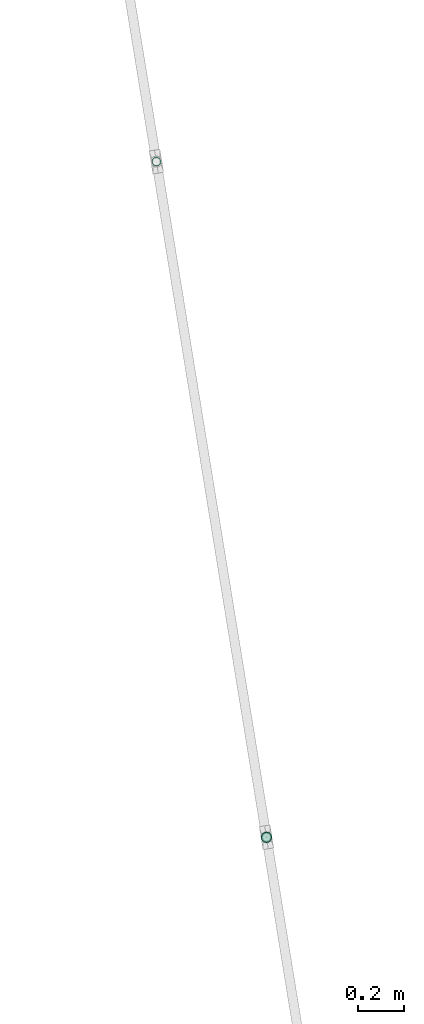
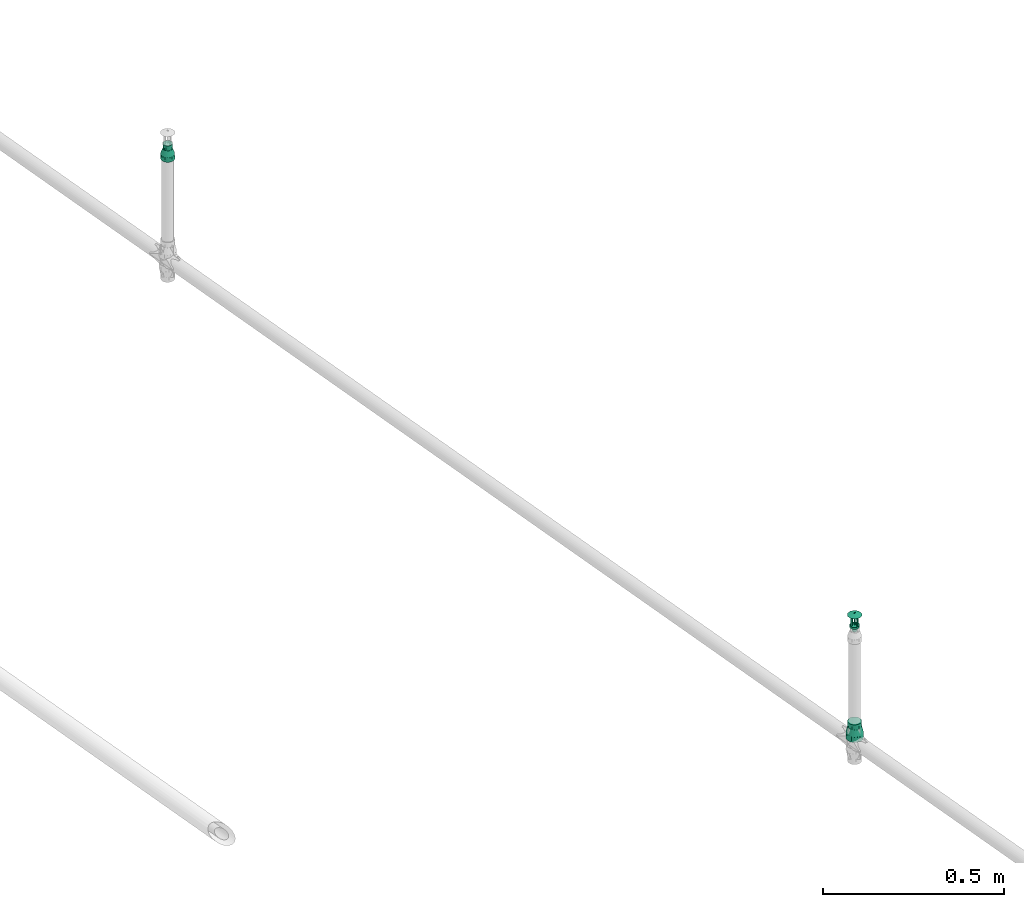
# One storey, part 33 of 56: 2 flow fittings, 1 flow terminal.
"""IFC2X3 building model written with IfcOpenShell, lengths in millimetres."""

from ifc_helpers import new_model, entity, si_unit, converted_unit, derived_unit, direction, frame, origin, origin_with_axes, place, context, subcontext, project, spatial, faceted_brep, source, transform, mapped, material, type_object, element, save


model = new_model("IFC2X3")

# Units and contexts
model_context = context("Model", 3, precision=0.01, world=origin(), true_north=direction((6.12323399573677e-17, 1.0)))
plan_context = context("Plan", 3, precision=1e-05, world=origin_with_axes())
body_context = subcontext(model_context, "Body", "Model", "MODEL_VIEW")
ifc_project = project(units=[converted_unit("PLANEANGLEUNIT", "DEGREE", entity("IfcPositiveLengthMeasure", 0.0174532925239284), si_unit("PLANEANGLEUNIT", "RADIAN"), dimensions=[0, 0, 0, 0, 0, 0, 0]), si_unit("AREAUNIT", "SQUARE_METRE"), si_unit("LENGTHUNIT", "METRE", prefix="MILLI"), si_unit("MASSUNIT", "GRAM", prefix="KILO"), si_unit("POWERUNIT", "WATT"), si_unit("PRESSUREUNIT", "PASCAL", prefix="KILO"), si_unit("FORCEUNIT", "NEWTON", prefix="KILO"), si_unit("ELECTRICVOLTAGEUNIT", "VOLT"), si_unit("ELECTRICCURRENTUNIT", "AMPERE"), si_unit("THERMODYNAMICTEMPERATUREUNIT", "DEGREE_CELSIUS"), si_unit("TIMEUNIT", "SECOND"), si_unit("VOLUMEUNIT", "CUBIC_METRE"), derived_unit("LINEARVELOCITYUNIT", [(si_unit("LENGTHUNIT", "METRE"), 1), (si_unit("TIMEUNIT", "SECOND"), -1)]), derived_unit("VOLUMETRICFLOWRATEUNIT", [(si_unit("VOLUMEUNIT", "CUBIC_METRE"), 1), (si_unit("TIMEUNIT", "SECOND"), -1)]), derived_unit("THERMALTRANSMITTANCEUNIT", [(si_unit("POWERUNIT", "WATT"), 1), (si_unit("THERMODYNAMICTEMPERATUREUNIT", "KELVIN"), -1), (si_unit("AREAUNIT", "SQUARE_METRE"), -1)]), derived_unit("SOUNDPRESSUREUNIT", [(si_unit("PRESSUREUNIT", "PASCAL"), 1)])], contexts=[model_context, plan_context])

# Site, building, storey
site_placement = place(None, frame((-3.09682673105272e-06, 1.93776733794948e-05, 0.0), z_axis=(0.0, 0.0, 1.0), x_axis=(-0.160806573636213, 0.986985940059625, 0.0)))
site = spatial("IfcSite", under=ifc_project, at=site_placement, Name="Default", CompositionType="ELEMENT")
building_placement = place(site_placement, frame((0.0, 0.0, 0.0), z_axis=(0.0, 0.0, 1.0), x_axis=(1.0, -2.77555756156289e-17, 0.0)))
building = spatial("IfcBuilding", under=site, at=building_placement, Name="Bygning (endres i Project Information)", CompositionType="ELEMENT")
storey_placement = place(building_placement, frame((0.0, 0.0, 51360.0000000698), z_axis=(0.0, 0.0, 1.0), x_axis=(1.0, -2.77555756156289e-17, 0.0)))
storey = spatial("IfcBuildingStorey", under=building, at=storey_placement, Name="H01-Nivå D+0,36", CompositionType="ELEMENT", Elevation=51360.0000000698)

# Flow fittings
ifc_material = material(Name="3320.001")
pipe_fitting_type_1 = type_object("IfcPipeFittingType", Name="RS_53_PIF_UN_Reducing-Socket-EN10241_MC_gen:RS_53_PIF_UN_Reducing-Socket-EN10241_MC_gen", PredefinedType="NOTDEFINED", material=ifc_material)
shared_shape_1 = source(origin(), body_context, "Body", "Brep", [
    faceted_brep([(0.0, 5.11167614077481, 19.0770350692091), (0.0, 9.87500000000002, 17.1040017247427), (0.0, 13.9653589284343, 13.9653589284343), (0.0, 17.1040017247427, 9.87499999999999), (0.0, 19.0770350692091, 5.11167614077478), (0.0, 19.75, 0.0), (0.0, 19.0770350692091, -5.1116761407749), (0.0, 17.1040017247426, -9.8750000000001), (0.0, 13.9653589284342, -13.9653589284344), (0.0, 9.87499999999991, -17.1040017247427), (0.0, 5.11167614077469, -19.0770350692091), (0.0, 0.0, -19.75), (0.0, -5.11167614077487, -19.0770350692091), (0.0, -9.87500000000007, -17.1040017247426), (0.0, -13.9653589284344, -13.9653589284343), (0.0, -17.1040017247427, -9.87499999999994), (0.0, -19.0770350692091, -5.11167614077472), (0.0, -19.75, 0.0), (0.0, -19.0770350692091, 5.11167614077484), (0.0, -17.1040017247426, 9.87500000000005), (0.0, -13.9653589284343, 13.9653589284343), (0.0, -9.87499999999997, 17.1040017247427), (0.0, -5.11167614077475, 19.0770350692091), (0.0, 0.0, 19.75), (17.0, -6.65118285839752, -18.277344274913), (17.0, -15.1289479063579, -12.6955675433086), (17.0, -16.8438814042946, -9.72538978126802), (17.0, -18.5588149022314, -6.7552120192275), (17.0, -9.87413131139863, -17.1045032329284), (17.0, -12.5015396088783, -14.9000353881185), (17.0, -19.1544074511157, -3.37760600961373), (17.0, -3.42823440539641, -19.4501853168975), (17.0, 3.43119786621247, -19.4496627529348), (17.0, 0.0014817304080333, -19.4499240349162), (17.0, -19.75, 0.0), (17.0, 6.65396758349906, -18.2763306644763), (17.0, 9.87673730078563, -17.1029985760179), (17.0, 18.5598439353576, -6.75238425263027), (17.0, 16.8453630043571, -9.7228232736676), (17.0, 15.1308820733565, -12.6932622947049), (17.0, 12.5038096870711, -14.8981304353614), (17.0, 19.75, 0.0), (17.0, 15.1308820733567, 12.6932622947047), (17.0, 16.8453630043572, 9.72282327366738), (17.0, 18.5598439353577, 6.75238425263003), (17.0, 9.87673730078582, 17.1029985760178), (17.0, 12.5038096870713, 14.8981304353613), (17.0, 3.43119786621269, 19.4496627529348), (17.0, 6.65396758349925, 18.2763306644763), (17.0, -3.4282344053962, 19.4501853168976), (17.0, 0.00148173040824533, 19.4499240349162), (17.0, -15.1289479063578, 12.6955675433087), (17.0, -6.65118285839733, 18.277344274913), (17.0, -9.87413131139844, 17.1045032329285), (17.0, -12.5015396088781, 14.9000353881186), (17.0, -19.1544074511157, 3.37760600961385), (17.0, -18.5588149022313, 6.75521201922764), (17.0, -16.8438814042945, 9.72538978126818), (34.0, 13.5000000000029, 0.0), (34.0, 12.6868795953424, -4.61444320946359), (34.0, -4.54589529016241, -12.4935366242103), (34.0, -2.34276817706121, -13.2951659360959), (34.0, 6.75195505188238, -11.6902139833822), (34.0, 0.00166747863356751, -13.2948718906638), (34.0, 2.34610313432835, -13.2945778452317), (34.0, 10.3432928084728, -8.67561489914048), (34.0, 8.54762393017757, -10.1829144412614), (34.0, 4.54902909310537, -12.492395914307), (34.0, 11.5150862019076, -6.64502905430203), (34.0, -6.74902240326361, -11.6919073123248), (34.0, -13.4999999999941, 0.0), (34.0, -13.0928608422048, -2.30881275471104), (34.0, -10.3411162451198, -8.6782091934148), (34.0, -8.54506932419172, -10.1850582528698), (34.0, -12.6857216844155, -4.61762550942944), (34.0, -11.5134189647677, -6.64791735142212), (34.0, -13.0928608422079, 2.30881275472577), (34.0, -12.6857216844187, 4.6176255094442), (34.0, 2.34610313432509, 13.2945778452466), (34.0, 4.54902909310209, 12.4923959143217), (34.0, -10.3411162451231, 8.67820919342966), (34.0, 0.00166747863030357, 13.2948718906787), (34.0, -6.74902240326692, 11.6919073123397), (34.0, -8.54506932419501, 10.1850582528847), (34.0, -11.5134189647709, 6.64791735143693), (34.0, -2.34276817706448, 13.2951659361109), (34.0, -4.5458952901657, 12.4935366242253), (34.0, 12.6868795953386, 4.61444320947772), (34.0, 11.5150862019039, 6.64502905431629), (34.0, 10.3432928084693, 8.67561489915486), (34.0, 6.7519550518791, 11.6902139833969), (34.0, 8.54762393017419, 10.1829144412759), (51.0, 3.49405710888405, -13.0399986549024), (51.0, 6.75000000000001, -11.6913429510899), (51.0, 9.5459415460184, -9.54594154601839), (51.0, 11.6913429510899, -6.74999999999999), (51.0, 13.0399986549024, -3.49405710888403), (51.0, 13.5, 0.0), (51.0, 13.0399986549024, 3.49405710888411), (51.0, 11.6913429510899, 6.75000000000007), (51.0, 9.54594154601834, 9.54594154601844), (51.0, 6.74999999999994, 11.69134295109), (51.0, 3.49405710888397, 13.0399986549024), (51.0, 0.0, 13.5), (51.0, -3.49405710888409, 13.0399986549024), (51.0, -6.75000000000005, 11.6913429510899), (51.0, -9.54594154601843, 9.54594154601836), (51.0, -11.6913429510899, 6.74999999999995), (51.0, -13.0399986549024, 3.49405710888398), (51.0, -13.5, 0.0), (51.0, -13.0399986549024, -3.49405710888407), (51.0, -11.6913429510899, -6.75000000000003), (51.0, -9.54594154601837, -9.54594154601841), (51.0, -6.74999999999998, -11.6913429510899), (51.0, -3.49405710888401, -13.0399986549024), (51.0, 0.0, -13.5)], [[[0, 1, 2, 3, 4, 5, 6, 7, 8, 9, 10, 11, 12, 13, 14, 15, 16, 17, 18, 19, 20, 21, 22, 23]], [[24, 13, 12]], [[15, 14, 25]], [[15, 25, 26, 27]], [[28, 29, 13]], [[16, 27, 30]], [[30, 17, 16]], [[15, 27, 16]], [[12, 31, 24]], [[25, 14, 29]], [[11, 32, 33, 31]], [[24, 28, 13]], [[13, 29, 14]], [[30, 34, 17]], [[32, 11, 10]], [[35, 9, 36]], [[7, 37, 38, 39]], [[9, 35, 10]], [[7, 6, 37]], [[8, 39, 40]], [[32, 10, 35]], [[7, 39, 8]], [[40, 36, 9]], [[6, 41, 37]], [[6, 5, 41]], [[11, 31, 12]], [[40, 9, 8]], [[41, 5, 4]], [[3, 2, 42]], [[3, 42, 43, 44]], [[45, 46, 1]], [[44, 41, 4]], [[0, 47, 48]], [[42, 2, 46]], [[23, 49, 50, 47]], [[1, 46, 2]], [[49, 23, 22]], [[19, 51, 20]], [[52, 21, 53]], [[3, 44, 4]], [[48, 45, 1]], [[54, 53, 21]], [[17, 34, 55]], [[21, 52, 22]], [[20, 51, 54]], [[49, 22, 52]], [[48, 1, 0]], [[17, 55, 18]], [[56, 19, 18]], [[18, 55, 56]], [[54, 21, 20]], [[57, 51, 19, 56]], [[23, 47, 0]], [[41, 58, 59]], [[60, 31, 61]], [[40, 62, 36]], [[63, 32, 64]], [[65, 39, 38]], [[64, 32, 35]], [[61, 33, 63]], [[37, 41, 59]], [[62, 40, 66]], [[40, 39, 66]], [[35, 36, 67]], [[65, 38, 68]], [[37, 68, 38]], [[64, 35, 67]], [[61, 31, 33]], [[69, 28, 24]], [[69, 24, 60]], [[70, 30, 71]], [[72, 29, 73]], [[30, 70, 34]], [[74, 27, 26]], [[68, 37, 59]], [[72, 25, 29]], [[27, 74, 71]], [[31, 60, 24]], [[29, 28, 73]], [[75, 26, 25]], [[67, 36, 62]], [[66, 39, 65]], [[27, 71, 30]], [[74, 26, 75]], [[73, 28, 69]], [[63, 33, 32]], [[75, 25, 72]], [[56, 76, 77]], [[48, 78, 79]], [[54, 51, 80]], [[81, 47, 50]], [[57, 56, 77]], [[52, 53, 82]], [[82, 53, 83]], [[55, 70, 76]], [[70, 55, 34]], [[84, 51, 57]], [[50, 85, 81]], [[56, 55, 76]], [[86, 49, 52]], [[83, 53, 54]], [[81, 78, 47]], [[48, 47, 78]], [[80, 51, 84]], [[49, 85, 50]], [[87, 44, 88]], [[87, 58, 41]], [[43, 42, 89]], [[57, 77, 84]], [[46, 45, 90]], [[85, 49, 86]], [[88, 44, 43]], [[54, 80, 83]], [[91, 42, 46]], [[52, 82, 86]], [[89, 42, 91]], [[87, 41, 44]], [[90, 45, 79]], [[46, 90, 91]], [[79, 45, 48]], [[43, 89, 88]], [[92, 93, 94, 95, 96, 97, 98, 99, 100, 101, 102, 103, 104, 105, 106, 107, 108, 109, 110, 111, 112, 113, 114, 115]], [[58, 97, 96]], [[95, 94, 65]], [[95, 65, 68, 59]], [[62, 66, 93]], [[59, 58, 96]], [[92, 64, 67]], [[65, 94, 66]], [[115, 61, 63, 64]], [[93, 66, 94]], [[67, 93, 92]], [[67, 62, 93]], [[95, 59, 96]], [[114, 61, 115]], [[111, 110, 74]], [[73, 113, 112]], [[109, 71, 110]], [[111, 74, 75, 72]], [[109, 70, 71]], [[60, 61, 114]], [[113, 69, 60]], [[111, 72, 112]], [[113, 60, 114]], [[112, 72, 73]], [[115, 64, 92]], [[71, 74, 110]], [[73, 69, 113]], [[86, 105, 104]], [[107, 106, 80]], [[107, 80, 84, 77]], [[82, 83, 105]], [[108, 77, 76]], [[76, 70, 109]], [[76, 109, 108]], [[104, 85, 86]], [[80, 106, 83]], [[103, 78, 81, 85]], [[91, 101, 100]], [[105, 83, 106]], [[86, 82, 105]], [[78, 103, 102]], [[79, 101, 90]], [[99, 87, 88, 89]], [[101, 79, 102]], [[99, 98, 87]], [[100, 89, 91]], [[78, 102, 79]], [[103, 85, 104]], [[99, 89, 100]], [[98, 58, 87]], [[107, 77, 108]], [[98, 97, 58]], [[91, 90, 101]]]),
])
flow_fitting_1_placement = place(storey_placement, frame((1000236.26325463, -386286.663841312, 3707.99999993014), z_axis=(2.77555756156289e-17, 1.0, 0.0), x_axis=(0.0, 0.0, 1.0)))
element("IfcFlowFitting", 1, at=flow_fitting_1_placement, inside=storey, type_object=pipe_fitting_type_1, material=ifc_material, Name="RS_53_PIF_UN_Reducing-Socket-EN10241_MC_gen:RS_53_PIF_UN_Reducing-Socket-EN10241_MC_gen", ObjectType="RS_53_PIF_UN_Reducing-Socket-EN10241_MC_gen:RS_53_PIF_UN_Reducing-Socket-EN10241_MC_gen", context=body_context, shape_type="MappedRepresentation", body=[
    mapped(shared_shape_1, transform((0.0, 0.0, 0.0), scale=1.0)),
])
pipe_fitting_type_2 = type_object("IfcPipeFittingType", Name="RS_53_PIF_UN_Reducing-Socket-EN10241_MC_gen:RS_53_PIF_UN_Reducing-Socket-EN10241_MC_gen", PredefinedType="NOTDEFINED", material=ifc_material)
shared_shape_2 = source(origin(), body_context, "Body", "Brep", [
    faceted_brep([(0.0, 0.0, 24.5), (0.0, 6.34106660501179, 23.6651827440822), (0.0, 12.25, 21.2176223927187), (0.0, 17.3241161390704, 17.3241161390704), (0.0, 21.2176223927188, 12.25), (0.0, 23.6651827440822, 6.34106660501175), (0.0, 24.5, 0.0), (0.0, 23.6651827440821, -6.34106660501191), (0.0, 21.2176223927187, -12.2500000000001), (0.0, 17.3241161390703, -17.3241161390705), (0.0, 12.2499999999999, -21.2176223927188), (0.0, 6.34106660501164, -23.6651827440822), (0.0, 0.0, -24.5), (0.0, -6.34106660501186, -23.6651827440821), (0.0, -12.2500000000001, -21.2176223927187), (0.0, -17.3241161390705, -17.3241161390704), (0.0, -21.2176223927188, -12.2499999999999), (0.0, -23.6651827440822, -6.34106660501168), (0.0, -24.5, 0.0), (0.0, -23.6651827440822, 6.34106660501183), (0.0, -21.2176223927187, 12.2500000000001), (0.0, -17.3241161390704, 17.3241161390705), (0.0, -12.25, 21.2176223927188), (0.0, -6.34106660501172, 23.6651827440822), (18.6666666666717, -8.25137606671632, -22.6729794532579), (18.6666666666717, -18.7677686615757, -15.7486780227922), (18.6666666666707, -20.8950763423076, -12.0642027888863), (18.6666666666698, -23.0223840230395, -8.37972755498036), (18.6666666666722, -12.2493529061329, -21.2179959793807), (18.6666666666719, -15.5085607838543, -18.4833370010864), (18.6666666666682, -23.7125607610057, -4.46565710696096), (18.6666666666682, -23.7611920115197, -4.18986377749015), (18.6666666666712, -4.25339922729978, -24.1279629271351), (18.6666666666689, 4.25560674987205, -24.1275736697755), (18.6666666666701, 0.00110376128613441, -24.1277682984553), (18.6666666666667, -24.5, 0.0), (18.6666666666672, 8.25345045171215, -22.6722244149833), (18.6666666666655, 12.2512941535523, -21.2168751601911), (18.6666666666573, 23.0231506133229, -8.37762113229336), (18.6666666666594, 20.8961800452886, -12.062290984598), (18.6666666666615, 18.7692094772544, -15.7469608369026), (18.6666666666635, 15.5102518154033, -18.4819179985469), (18.6666666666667, 24.5, 0.0), (18.6666666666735, 18.7692094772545, 15.7469608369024), (18.666666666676, 20.8961800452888, 12.0622909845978), (18.6666666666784, 23.023150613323, 8.3776211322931), (18.6666666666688, 12.2512941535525, 21.216875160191), (18.6666666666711, 15.5102518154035, 18.4819179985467), (18.6666666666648, 4.25560674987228, 24.1275736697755), (18.6666666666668, 8.25345045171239, 22.6722244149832), (18.6666666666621, -4.25339922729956, 24.1279629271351), (18.6666666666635, 0.00110376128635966, 24.1277682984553), (18.6666666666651, -23.7611920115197, 4.1898637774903), (18.6666666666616, -8.25137606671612, 22.672979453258), (18.666666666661, -12.2493529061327, 21.2179959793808), (18.6666666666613, -15.5085607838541, 18.4833370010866), (18.6666666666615, -18.7677686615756, 15.7486780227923), (18.6666666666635, -23.0223840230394, 8.37972755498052), (18.6666666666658, -23.7125607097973, 4.46565739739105), (18.6666666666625, -20.8950763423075, 12.0642027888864), (37.3333333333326, 19.750000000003, 0.0), (37.3333333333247, 18.5595959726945, -6.75306577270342), (37.3333333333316, 9.87626627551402, -17.1032705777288), (37.3333333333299, 12.5033702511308, -14.8985095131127), (37.3333333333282, 15.1304742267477, -12.6937484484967), (37.3333333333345, 3.43075149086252, -19.4497414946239), (37.333333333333, 6.65350888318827, -18.2765060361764), (37.3333333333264, 16.8450350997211, -9.72340711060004), (37.3333333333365, -3.42859151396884, -19.4501223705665), (37.3333333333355, 0.00107998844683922, -19.4499319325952), (37.3333333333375, -9.87436684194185, -17.1043672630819), (37.333333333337, -6.65147917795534, -18.2772448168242), (37.3333333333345, -19.1544229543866, -3.37756341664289), (37.3333333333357, -18.558845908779, -6.75512683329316), (37.3333333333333, -19.7499999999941, 0.0), (37.3333333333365, -16.8439551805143, -9.72527774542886), (37.3333333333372, -15.1290644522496, -12.6954286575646), (37.3333333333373, -12.5017156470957, -14.8998979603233), (37.3333333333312, -18.5588459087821, 6.755126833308), (37.3333333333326, -19.1544229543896, 3.37756341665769), (37.3333333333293, -15.1290644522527, 12.6954286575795), (37.3333333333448, 18.559595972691, 6.75306577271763), (37.3333333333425, 16.8450350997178, 9.72340711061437), (37.3333333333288, -9.87436684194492, 17.104367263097), (37.3333333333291, -12.5017156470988, 14.8998979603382), (37.3333333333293, -6.65147917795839, 18.2772448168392), (37.3333333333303, -16.8439551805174, 9.72527774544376), (37.333333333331, 0.00107998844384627, 19.4499319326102), (37.3333333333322, 3.43075149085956, 19.4497414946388), (37.3333333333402, 15.1304742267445, 12.6937484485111), (37.333333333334, 6.65350888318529, 18.2765060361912), (37.3333333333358, 9.87626627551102, 17.1032705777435), (37.333333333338, 12.5033702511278, 14.8985095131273), (37.3333333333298, -3.42859151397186, 19.4501223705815), (56.0, 5.11167614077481, -19.0770350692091), (56.0, 9.87500000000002, -17.1040017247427), (56.0, 13.9653589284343, -13.9653589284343), (56.0, 17.1040017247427, -9.87499999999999), (56.0, 19.0770350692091, -5.11167614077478), (56.0, 19.75, 0.0), (56.0, 19.0770350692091, 5.1116761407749), (56.0, 17.1040017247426, 9.8750000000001), (56.0, 13.9653589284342, 13.9653589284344), (56.0, 9.87499999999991, 17.1040017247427), (56.0, 5.11167614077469, 19.0770350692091), (56.0, 0.0, 19.75), (56.0, -5.11167614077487, 19.0770350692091), (56.0, -9.87500000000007, 17.1040017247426), (56.0, -13.9653589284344, 13.9653589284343), (56.0, -17.1040017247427, 9.87499999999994), (56.0, -19.0770350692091, 5.11167614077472), (56.0, -19.75, 0.0), (56.0, -19.0770350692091, -5.11167614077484), (56.0, -17.1040017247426, -9.87500000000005), (56.0, -13.9653589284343, -13.9653589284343), (56.0, -9.87499999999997, -17.1040017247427), (56.0, -5.11167614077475, -19.0770350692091), (56.0, 0.0, -19.75)], [[[0, 1, 2, 3, 4, 5, 6, 7, 8, 9, 10, 11, 12, 13, 14, 15, 16, 17, 18, 19, 20, 21, 22, 23]], [[24, 14, 13]], [[16, 15, 25]], [[16, 25, 26, 27]], [[28, 29, 14]], [[17, 27, 30, 31]], [[31, 18, 17]], [[16, 27, 17]], [[13, 32, 24]], [[25, 15, 29]], [[12, 33, 34, 32]], [[24, 28, 14]], [[14, 29, 15]], [[31, 35, 18]], [[33, 12, 11]], [[36, 10, 37]], [[8, 38, 39, 40]], [[10, 36, 11]], [[8, 7, 38]], [[9, 40, 41]], [[33, 11, 36]], [[8, 40, 9]], [[41, 37, 10]], [[7, 42, 38]], [[7, 6, 42]], [[12, 32, 13]], [[41, 10, 9]], [[42, 6, 5]], [[4, 3, 43]], [[4, 43, 44, 45]], [[46, 47, 2]], [[45, 42, 5]], [[1, 48, 49]], [[43, 3, 47]], [[0, 50, 51, 48]], [[2, 47, 3]], [[50, 0, 23]], [[0, 48, 1]], [[18, 52, 19]], [[53, 22, 54]], [[49, 2, 1]], [[55, 22, 21]], [[35, 52, 18]], [[4, 45, 5]], [[22, 53, 23]], [[21, 56, 55]], [[50, 23, 53]], [[49, 46, 2]], [[20, 56, 21]], [[57, 20, 19]], [[19, 52, 58, 57]], [[55, 54, 22]], [[59, 56, 20, 57]], [[42, 60, 61]], [[41, 62, 37]], [[63, 40, 64]], [[40, 39, 64]], [[33, 36, 65]], [[65, 36, 66]], [[38, 42, 61]], [[64, 39, 67]], [[41, 40, 63]], [[36, 37, 66]], [[62, 41, 63]], [[38, 67, 39]], [[68, 34, 69]], [[68, 32, 34]], [[24, 70, 28]], [[32, 68, 71]], [[72, 35, 31, 30]], [[73, 27, 26]], [[72, 74, 35]], [[26, 75, 73]], [[76, 25, 29]], [[29, 77, 76]], [[70, 24, 71]], [[24, 32, 71]], [[70, 77, 28]], [[76, 75, 25]], [[28, 77, 29]], [[25, 75, 26]], [[73, 30, 27]], [[30, 73, 72]], [[66, 37, 62]], [[69, 34, 33]], [[69, 33, 65]], [[67, 38, 61]], [[78, 58, 79]], [[80, 55, 56]], [[81, 45, 82]], [[78, 59, 57]], [[83, 53, 54]], [[55, 80, 84]], [[79, 58, 52, 35]], [[78, 57, 58]], [[84, 54, 55]], [[85, 50, 53]], [[79, 35, 74]], [[86, 56, 59]], [[84, 83, 54]], [[48, 87, 88]], [[49, 48, 88]], [[59, 78, 86]], [[53, 83, 85]], [[87, 48, 51]], [[81, 60, 42]], [[44, 43, 89]], [[90, 46, 49]], [[47, 46, 91]], [[86, 80, 56]], [[82, 45, 44]], [[49, 88, 90]], [[92, 43, 47]], [[91, 46, 90]], [[51, 50, 93]], [[42, 45, 81]], [[85, 93, 50]], [[44, 89, 82]], [[51, 93, 87]], [[47, 91, 92]], [[89, 43, 92]], [[94, 95, 96, 97, 98, 99, 100, 101, 102, 103, 104, 105, 106, 107, 108, 109, 110, 111, 112, 113, 114, 115, 116, 117]], [[60, 99, 98]], [[97, 96, 64]], [[97, 64, 67, 61]], [[62, 63, 95]], [[61, 60, 98]], [[94, 65, 66]], [[64, 96, 63]], [[117, 68, 69, 65]], [[95, 63, 96]], [[117, 116, 68]], [[77, 70, 115]], [[66, 95, 94]], [[115, 70, 71]], [[113, 112, 73]], [[115, 71, 116]], [[117, 65, 94]], [[97, 61, 98]], [[72, 111, 74]], [[71, 68, 116]], [[113, 76, 114]], [[114, 76, 77]], [[77, 115, 114]], [[113, 73, 75, 76]], [[111, 72, 112]], [[66, 62, 95]], [[72, 73, 112]], [[85, 107, 106]], [[109, 108, 80]], [[109, 80, 86, 78]], [[83, 84, 107]], [[110, 78, 79]], [[79, 111, 110]], [[109, 78, 110]], [[106, 93, 85]], [[80, 108, 84]], [[105, 88, 87, 93]], [[85, 83, 107]], [[107, 84, 108]], [[79, 74, 111]], [[88, 105, 104]], [[90, 103, 91]], [[101, 81, 82, 89]], [[103, 90, 104]], [[101, 100, 81]], [[102, 89, 92]], [[88, 104, 90]], [[101, 89, 102]], [[92, 91, 103]], [[100, 60, 81]], [[100, 99, 60]], [[105, 93, 106]], [[92, 103, 102]]]),
])
flow_fitting_2_placement = place(storey_placement, frame((997236.263254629, -386286.663841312, 3380.93333333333), z_axis=(2.77555756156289e-17, 1.0, 0.0), x_axis=(0.0, 0.0, 1.0)))
element("IfcFlowFitting", 2, at=flow_fitting_2_placement, inside=storey, type_object=pipe_fitting_type_2, material=ifc_material, Name="RS_53_PIF_UN_Reducing-Socket-EN10241_MC_gen:RS_53_PIF_UN_Reducing-Socket-EN10241_MC_gen", ObjectType="RS_53_PIF_UN_Reducing-Socket-EN10241_MC_gen:RS_53_PIF_UN_Reducing-Socket-EN10241_MC_gen", context=body_context, shape_type="MappedRepresentation", body=[
    mapped(shared_shape_2, transform((0.0, 0.0, 0.0), scale=1.0)),
])

# Flow terminal
fire_suppression_terminal_type = type_object("IfcFireSuppressionTerminalType", Name="SU-15-K80-68DGR-STD:SU-15-K80-68DGR-STD", PredefinedType="NOTDEFINED", material=ifc_material)
shared_shape_3 = source(origin(), body_context, "Body", "Brep", [
    faceted_brep([(-2.5, 0.0, 62.0), (0.0, -2.5, 62.0), (2.5, 0.0, 62.0), (0.0, 2.5, 62.0), (-2.5, 0.0, 59.0), (0.0, 2.5, 59.0), (2.5, 0.0, 59.0), (0.0, -2.5, 59.0)], [[[0, 1, 2, 3]], [[4, 5, 6, 7]], [[0, 4, 7, 1]], [[7, 6, 2, 1]], [[2, 6, 5, 3]], [[5, 4, 0, 3]]]),
    faceted_brep([(1.0, -13.5, 47.0), (1.0, -13.5, 19.0), (1.0, -8.5, 19.0), (1.0, -8.5, 42.0), (1.0, 8.5, 42.0), (1.0, 8.5, 19.0), (1.0, 13.5, 19.0), (1.0, 13.5, 47.0), (-1.0, -13.5, 47.0), (-1.0, 13.5, 47.0), (-1.0, 13.5, 19.0), (-1.0, 8.5, 19.0), (-1.0, 8.5, 42.0), (-1.0, -8.5, 42.0), (-1.0, -8.5, 19.0), (-1.0, -13.5, 19.0)], [[[0, 1, 2, 3, 4, 5, 6, 7]], [[8, 9, 10, 11, 12, 13, 14, 15]], [[1, 0, 8, 15]], [[2, 1, 15, 14]], [[3, 2, 14, 13]], [[4, 3, 13, 12]], [[5, 4, 12, 11]], [[6, 5, 11, 10]], [[7, 6, 10, 9]], [[0, 7, 9, 8]]]),
    faceted_brep([(-13.5, 1.0, 47.0), (13.5, 1.0, 47.0), (13.5, 1.0, 19.0), (8.5, 1.0, 19.0), (8.5, 1.0, 42.0), (-8.5, 1.0, 42.0), (-8.5, 1.0, 19.0), (-13.5, 1.0, 19.0), (-13.5, -1.0, 47.0), (-13.5, -1.0, 19.0), (-8.5, -1.0, 19.0), (-8.5, -1.0, 42.0), (8.5, -1.0, 42.0), (8.5, -1.0, 19.0), (13.5, -1.0, 19.0), (13.5, -1.0, 47.0)], [[[0, 1, 2, 3, 4, 5, 6, 7]], [[8, 9, 10, 11, 12, 13, 14, 15]], [[1, 0, 8, 15]], [[2, 1, 15, 14]], [[3, 2, 14, 13]], [[4, 3, 13, 12]], [[5, 4, 12, 11]], [[6, 5, 11, 10]], [[7, 6, 10, 9]], [[0, 7, 9, 8]]]),
    faceted_brep([(0.0, 2.5, 59.0), (-2.5, 0.0, 59.0), (0.0, -2.5, 59.0), (2.5, 0.0, 59.0), (6.4893568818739, 19.9721868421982, 53.0), (16.9893568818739, 12.3434902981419, 53.0), (21.0, 0.0, 53.0), (16.989356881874, -12.3434902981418, 53.0), (6.48935688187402, -19.9721868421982, 53.0), (-6.48935688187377, -19.9721868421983, 53.0), (-16.9893568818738, -12.343490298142, 53.0), (-21.0, 0.0, 53.0), (-16.9893568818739, 12.3434902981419, 53.0), (-6.48935688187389, 19.9721868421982, 53.0)], [[[0, 1, 2, 3]], [[4, 5, 6, 7, 8, 9, 10, 11, 12, 13]], [[6, 3, 7]], [[2, 8, 7]], [[7, 3, 2]], [[2, 1, 10]], [[2, 10, 9]], [[10, 1, 11]], [[2, 9, 8]], [[11, 1, 12]], [[0, 13, 12]], [[12, 1, 0]], [[0, 3, 5]], [[0, 5, 4]], [[5, 3, 6]], [[0, 4, 13]]]),
    faceted_brep([(-2.5, 0.0, 53.0), (0.0, -2.5, 53.0), (2.5, 0.0, 53.0), (0.0, 2.5, 53.0), (-2.5, 0.0, 19.0), (0.0, 2.5, 19.0), (2.5, 0.0, 19.0), (0.0, -2.5, 19.0)], [[[0, 1, 2, 3]], [[4, 5, 6, 7]], [[0, 4, 7, 1]], [[7, 6, 2, 1]], [[2, 6, 5, 3]], [[5, 4, 0, 3]]]),
    faceted_brep([(3.62346663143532, -13.5229615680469, 19.0), (7.0, -12.1243556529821, 19.0), (9.89949493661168, -9.89949493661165, 19.0), (12.1243556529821, -7.0, 19.0), (13.522961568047, -3.62346663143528, 19.0), (14.0, 0.0, 19.0), (13.522961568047, 3.62346663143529, 19.0), (12.1243556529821, 7.0, 19.0), (9.89949493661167, 9.89949493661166, 19.0), (7.0, 12.1243556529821, 19.0), (3.62346663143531, 13.522961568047, 19.0), (0.0, 14.0, 19.0), (-3.62346663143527, 13.522961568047, 19.0), (-7.0, 12.1243556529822, 19.0), (-9.89949493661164, 9.89949493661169, 19.0), (-12.1243556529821, 7.0, 19.0), (-13.5229615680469, 3.62346663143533, 19.0), (-14.0, 0.0, 19.0), (-13.5229615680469, -3.62346663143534, 19.0), (-12.1243556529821, -7.0, 19.0), (-9.89949493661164, -9.89949493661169, 19.0), (-7.0, -12.1243556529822, 19.0), (-3.62346663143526, -13.522961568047, 19.0), (0.0, -14.0, 19.0), (9.89949493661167, 9.89949493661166, 13.0), (12.1243556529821, 7.0, 13.0), (13.522961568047, 3.62346663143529, 13.0), (14.0, 0.0, 13.0), (13.522961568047, -3.62346663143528, 13.0), (12.1243556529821, -7.0, 13.0), (9.89949493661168, -9.89949493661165, 13.0), (7.0, -12.1243556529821, 13.0), (3.62346663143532, -13.5229615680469, 13.0), (0.0, -14.0, 13.0), (-3.62346663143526, -13.522961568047, 13.0), (-7.0, -12.1243556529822, 13.0), (-9.89949493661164, -9.89949493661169, 13.0), (-12.1243556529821, -7.0, 13.0), (-13.5229615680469, -3.62346663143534, 13.0), (-14.0, 0.0, 13.0), (-13.5229615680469, 3.62346663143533, 13.0), (-12.1243556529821, 7.0, 13.0), (-9.89949493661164, 9.89949493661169, 13.0), (-7.0, 12.1243556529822, 13.0), (-3.62346663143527, 13.522961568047, 13.0), (0.0, 14.0, 13.0), (3.62346663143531, 13.522961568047, 13.0), (7.0, 12.1243556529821, 13.0)], [[[0, 1, 2, 3, 4, 5, 6, 7, 8, 9, 10, 11, 12, 13, 14, 15, 16, 17, 18, 19, 20, 21, 22, 23]], [[24, 25, 26, 27, 28, 29, 30, 31, 32, 33, 34, 35, 36, 37, 38, 39, 40, 41, 42, 43, 44, 45, 46, 47]], [[38, 18, 17, 39]], [[37, 19, 18, 38]], [[21, 20, 36, 35]], [[37, 36, 20, 19]], [[22, 21, 35, 34]], [[23, 22, 34, 33]], [[32, 0, 23, 33]], [[31, 1, 0, 32]], [[3, 2, 30, 29]], [[31, 30, 2, 1]], [[4, 3, 29, 28]], [[5, 4, 28, 27]], [[26, 6, 5, 27]], [[25, 7, 6, 26]], [[9, 8, 24, 47]], [[25, 24, 8, 7]], [[10, 9, 47, 46]], [[11, 10, 46, 45]], [[44, 12, 11, 45]], [[43, 13, 12, 44]], [[15, 14, 42, 41]], [[43, 42, 14, 13]], [[16, 15, 41, 40]], [[17, 16, 40, 39]]]),
    faceted_brep([(1.94114283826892, -7.24444369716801, 13.0), (3.75000000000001, -6.49519052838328, 13.0), (5.30330085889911, -5.3033008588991, 13.0), (6.49519052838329, -3.75, 13.0), (7.24444369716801, -1.9411428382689, 13.0), (7.5, 0.0, 13.0), (7.24444369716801, 1.9411428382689, 13.0), (6.49519052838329, 3.75, 13.0), (5.30330085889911, 5.3033008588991, 13.0), (3.75000000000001, 6.49519052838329, 13.0), (1.94114283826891, 7.24444369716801, 13.0), (0.0, 7.5, 13.0), (-1.94114283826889, 7.24444369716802, 13.0), (-3.74999999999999, 6.4951905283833, 13.0), (-5.3033008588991, 5.30330085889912, 13.0), (-6.49519052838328, 3.75000000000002, 13.0), (-7.24444369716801, 1.94114283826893, 13.0), (-7.5, 0.0, 13.0), (-7.244443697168, -1.94114283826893, 13.0), (-6.49519052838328, -3.75000000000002, 13.0), (-5.30330085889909, -5.30330085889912, 13.0), (-3.74999999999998, -6.4951905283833, 13.0), (-1.94114283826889, -7.24444369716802, 13.0), (0.0, -7.5, 13.0), (5.30330085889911, 5.3033008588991, 0.0), (6.49519052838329, 3.75, 0.0), (7.24444369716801, 1.9411428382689, 0.0), (7.5, 0.0, 0.0), (7.24444369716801, -1.9411428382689, 0.0), (6.49519052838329, -3.75, 0.0), (5.30330085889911, -5.3033008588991, 0.0), (3.75000000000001, -6.49519052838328, 0.0), (1.94114283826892, -7.24444369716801, 0.0), (0.0, -7.5, 0.0), (-1.94114283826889, -7.24444369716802, 0.0), (-3.74999999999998, -6.4951905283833, 0.0), (-5.30330085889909, -5.30330085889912, 0.0), (-6.49519052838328, -3.75000000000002, 0.0), (-7.244443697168, -1.94114283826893, 0.0), (-7.5, 0.0, 0.0), (-7.24444369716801, 1.94114283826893, 0.0), (-6.49519052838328, 3.75000000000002, 0.0), (-5.3033008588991, 5.30330085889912, 0.0), (-3.74999999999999, 6.4951905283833, 0.0), (-1.94114283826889, 7.24444369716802, 0.0), (0.0, 7.5, 0.0), (1.94114283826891, 7.24444369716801, 0.0), (3.75000000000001, 6.49519052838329, 0.0)], [[[0, 1, 2, 3, 4, 5, 6, 7, 8, 9, 10, 11, 12, 13, 14, 15, 16, 17, 18, 19, 20, 21, 22, 23]], [[24, 25, 26, 27, 28, 29, 30, 31, 32, 33, 34, 35, 36, 37, 38, 39, 40, 41, 42, 43, 44, 45, 46, 47]], [[38, 18, 17, 39]], [[37, 19, 18, 38]], [[21, 20, 36, 35]], [[37, 36, 20, 19]], [[22, 21, 35, 34]], [[23, 22, 34, 33]], [[32, 0, 23, 33]], [[31, 1, 0, 32]], [[3, 2, 30, 29]], [[31, 30, 2, 1]], [[4, 3, 29, 28]], [[5, 4, 28, 27]], [[26, 6, 5, 27]], [[25, 7, 6, 26]], [[9, 8, 24, 47]], [[25, 24, 8, 7]], [[10, 9, 47, 46]], [[11, 10, 46, 45]], [[44, 12, 11, 45]], [[43, 13, 12, 44]], [[15, 14, 42, 41]], [[43, 42, 14, 13]], [[16, 15, 41, 40]], [[17, 16, 40, 39]]]),
])
flow_terminal_placement = place(storey_placement, frame((997236.263254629, -386286.663841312, 3741.99999993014), z_axis=(0.0, 0.0, 1.0), x_axis=(-1.0, 2.77555756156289e-17, 0.0)))
element("IfcFlowTerminal", 3, at=flow_terminal_placement, inside=storey, type_object=fire_suppression_terminal_type, material=ifc_material, Name="SU-15-K80-68DGR-STD:SU-15-K80-68DGR-STD", ObjectType="SU-15-K80-68DGR-STD:SU-15-K80-68DGR-STD", context=body_context, shape_type="MappedRepresentation", body=[
    mapped(shared_shape_3, transform((0.0, 0.0, 0.0), scale=1.0)),
])

save(model, "model.ifc")
